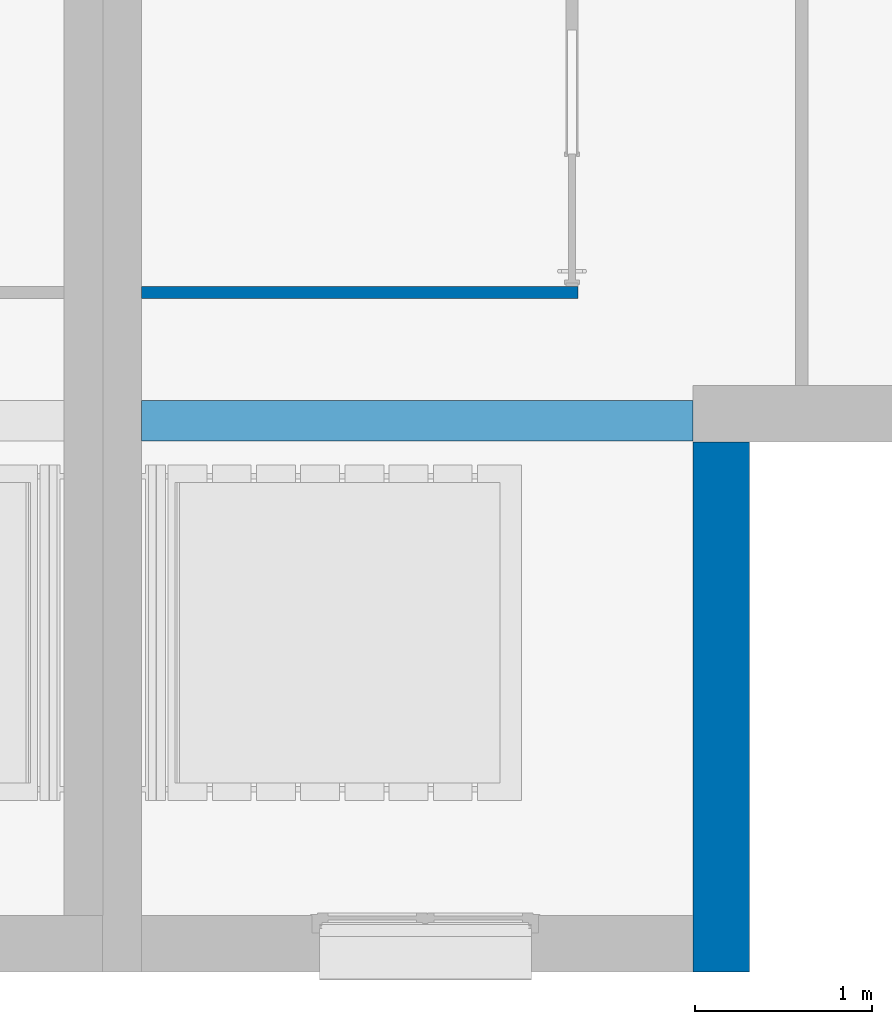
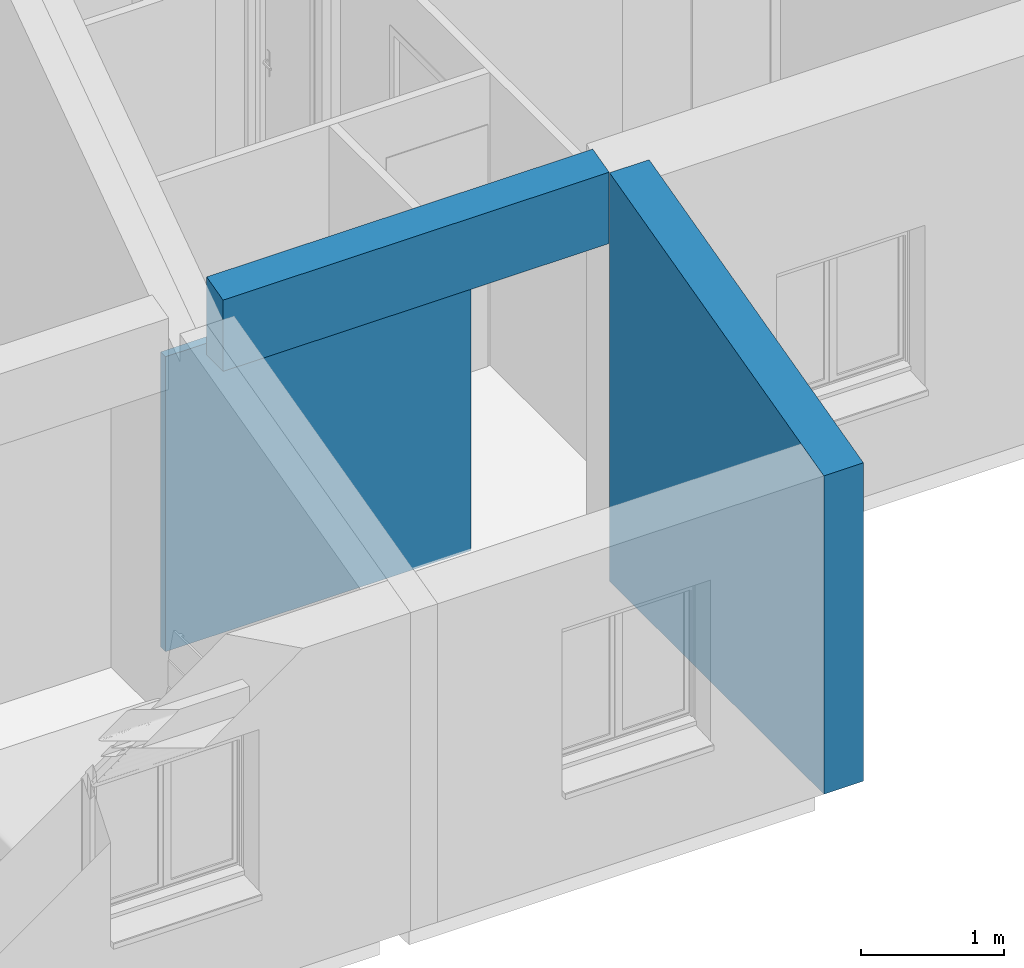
# One storey, part 14 of 50: 3 walls.
"""IFC2X3 building model written with IfcOpenShell, lengths in metres."""

from ifc_helpers import new_model, entity, si_unit, converted_unit, derived_unit, direction, frame, frame_2d, origin, place, context, subcontext, project, spatial, polyline, rectangle, extrude, clip, bounded_halfspace, material, layer, layer_set, layer_usage, type_object, element, save


model = new_model("IFC2X3")

# Units and contexts
model_context = context("Model", 3, precision=1e-05, world=origin(), true_north=direction((6.12303176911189e-17, 1.0)))
context_of_model = context(None, 3, precision=1e-05, world=origin(), true_north=direction((6.12303176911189e-17, 1.0)))
body_context = subcontext(model_context, "Body", "Model", "MODEL_VIEW")
ifc_project = project(units=[si_unit("LENGTHUNIT", "METRE"), si_unit("AREAUNIT", "SQUARE_METRE"), si_unit("VOLUMEUNIT", "CUBIC_METRE"), converted_unit("PLANEANGLEUNIT", "DEGREE", entity("IfcRatioMeasure", 0.0174532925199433), si_unit("PLANEANGLEUNIT", "RADIAN"), dimensions=[0, 0, 0, 0, 0, 0, 0]), si_unit("MASSUNIT", "GRAM", prefix="KILO"), si_unit("TIMEUNIT", "SECOND"), si_unit("FREQUENCYUNIT", "HERTZ"), si_unit("THERMODYNAMICTEMPERATUREUNIT", "DEGREE_CELSIUS"), derived_unit("THERMALTRANSMITTANCEUNIT", [(si_unit("MASSUNIT", "GRAM", prefix="KILO"), 1), (si_unit("THERMODYNAMICTEMPERATUREUNIT", "KELVIN"), -1), (si_unit("TIMEUNIT", "SECOND"), -3)]), derived_unit("VOLUMETRICFLOWRATEUNIT", [(si_unit("LENGTHUNIT", "METRE"), 3), (si_unit("TIMEUNIT", "SECOND"), -1)]), si_unit("ELECTRICCURRENTUNIT", "AMPERE"), si_unit("ELECTRICVOLTAGEUNIT", "VOLT"), si_unit("POWERUNIT", "WATT"), si_unit("FORCEUNIT", "NEWTON", prefix="KILO"), si_unit("ILLUMINANCEUNIT", "LUX"), si_unit("LUMINOUSFLUXUNIT", "LUMEN"), si_unit("LUMINOUSINTENSITYUNIT", "CANDELA"), si_unit("PRESSUREUNIT", "PASCAL")], contexts=[model_context, context_of_model])

# Site, building, storey
site_placement = place(None, origin())
site = spatial("IfcSite", under=ifc_project, at=site_placement, Name="Surface", CompositionType="ELEMENT")
building_placement = place(site_placement, origin())
building = spatial("IfcBuilding", under=site, at=building_placement, CompositionType="ELEMENT")
storey_placement = place(building_placement, frame((0.0, 0.0, 2.82)))
storey = spatial("IfcBuildingStorey", under=building, at=storey_placement, Name="ETAGE", CompositionType="ELEMENT", Elevation=2.82)

# Walls
ifc_material_1 = material(Name="Peinture - Blanc")
ifc_layer_1 = layer(ifc_material_1, 0.07)
ifc_layer_set_1 = layer_set([ifc_layer_1], Name="Mur de base:Int.  Platre 70 mm en blanc")
ifc_layer_usage_1 = layer_usage(ifc_layer_set_1, "AXIS2", "NEGATIVE", 0.035)
wall_type_1 = type_object("IfcWallType", Name="Mur de base:Int.  Platre 70 mm en blanc", PredefinedType="STANDARD", material=ifc_layer_set_1)
wall_1_placement = place(storey_placement, frame((71.5246263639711, 80.7327566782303, 0.0), z_axis=(0.0, 0.0, 1.0), x_axis=(-1.0, 0.0, 0.0)))
element("IfcWallStandardCase", 1, at=wall_1_placement, inside=storey, type_object=wall_type_1, material=ifc_layer_usage_1, Name="Mur de base:Int.  Platre 70 mm en blanc", ObjectType="Mur de base:Int.  Platre 70 mm en blanc", context=body_context, shape_type="SweptSolid", body=[
    extrude(rectangle(XDim=2.47038340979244, YDim=0.0699999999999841, at=frame_2d((1.23519170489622, 0.0), x_axis=(-1.0, 0.0))), origin(), (0.0, 0.0, 1.0), 2.52),
])
ifc_material_2 = material(Name="Enduit  gris")
ifc_layer_2 = layer(ifc_material_2, 0.02)
ifc_material_3 = material(Name="Parpaing")
ifc_layer_3 = layer(ifc_material_3, 0.2)
ifc_material_4 = material(Name="Isolant")
ifc_layer_4 = layer(ifc_material_4, 0.1)
ifc_layer_set_2 = layer_set([ifc_layer_2, ifc_layer_3, ifc_layer_4], Name="Mur de base:Ext. Parpaing 20 + Isolant 10 enduit gris")
ifc_layer_usage_2 = layer_usage(ifc_layer_set_2, "AXIS2", "NEGATIVE", 0.16)
wall_type_2 = type_object("IfcWallType", Name="Mur de base:Ext. Parpaing 20 + Isolant 10 enduit gris", PredefinedType="STANDARD", material=ifc_layer_set_2)
wall_2_placement = place(storey_placement, frame((72.334626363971, 79.8877566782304, 0.0), z_axis=(0.0, 0.0, 1.0), x_axis=(0.0, -1.0, 0.0)))
element("IfcWallStandardCase", 2, at=wall_2_placement, inside=storey, type_object=wall_type_2, material=ifc_layer_usage_2, Name="Mur de base:Ext. Parpaing 20 + Isolant 10 enduit gris", ObjectType="Mur de base:Ext. Parpaing 20 + Isolant 10 enduit gris", context=body_context, shape_type="Clipping", body=[
    clip(extrude(rectangle(XDim=3.00000000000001, YDim=0.319999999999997, at=frame_2d((1.50000000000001, 0.0), x_axis=(-1.0, 0.0))), origin(), (0.0, 0.0, 1.0), 3.49084668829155), bounded_halfspace(frame((0.0, -0.159999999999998, 3.49084668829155), z_axis=(0.248864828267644, 0.0, 0.968538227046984), x_axis=(0.0, 1.0, 0.0)), False, frame((0.0, -0.159999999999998, 3.49084668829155)), polyline([(0.0, 0.0), (2.68000000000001, 0.0), (3.0, 0.0), (3.0, 0.319999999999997), (0.0, 0.319999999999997), (0.0, 0.0)]))),
])
ifc_material_5 = material(Name="Enduit blanc cassé2")
ifc_layer_5 = layer(ifc_material_5, 0.015)
ifc_layer_6 = layer(ifc_material_3, 0.2)
ifc_layer_7 = layer(ifc_material_5, 0.015)
ifc_layer_set_3 = layer_set([ifc_layer_5, ifc_layer_6, ifc_layer_7], Name="Mur de base:Ext. Parpaing 20 + 2 x 1.5")
ifc_layer_usage_3 = layer_usage(ifc_layer_set_3, "AXIS2", "NEGATIVE", 0.115)
wall_type_3 = type_object("IfcWallType", Name="Mur de base:Ext. Parpaing 20 + 2 x 1.5", PredefinedType="STANDARD", material=ifc_layer_set_3)
wall_3_placement = place(storey_placement, frame((72.174626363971, 80.0077566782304, 2.88288676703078), z_axis=(0.0, 0.0, 1.0), x_axis=(-1.0, 0.0, 0.0)))
element("IfcWallStandardCase", 3, at=wall_3_placement, inside=storey, type_object=wall_type_3, material=ifc_layer_usage_3, Name="Mur de base:Ext. Parpaing 20 + 2 x 1.5", ObjectType="Mur de base:Ext. Parpaing 20 + 2 x 1.5", context=body_context, shape_type="Clipping", body=[
    clip(extrude(rectangle(XDim=3.12038340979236, YDim=0.230000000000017, at=frame_2d((1.56019170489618, -6.45317133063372e-16), x_axis=(-1.0, 0.0))), origin(), (0.0, 0.0, 1.0), 0.668342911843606), bounded_halfspace(frame((0.0, -0.114999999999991, 0.668342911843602), z_axis=(0.0, 0.248864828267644, 0.968538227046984), x_axis=(-1.0, 0.0, 0.0)), False, frame((0.0, -0.114999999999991, 0.668342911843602)), polyline([(0.0, 0.0), (3.12038340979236, 0.0), (3.12038340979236, 0.23), (0.0, 0.23), (0.0, 0.0)]))),
])

save(model, "model.ifc")
